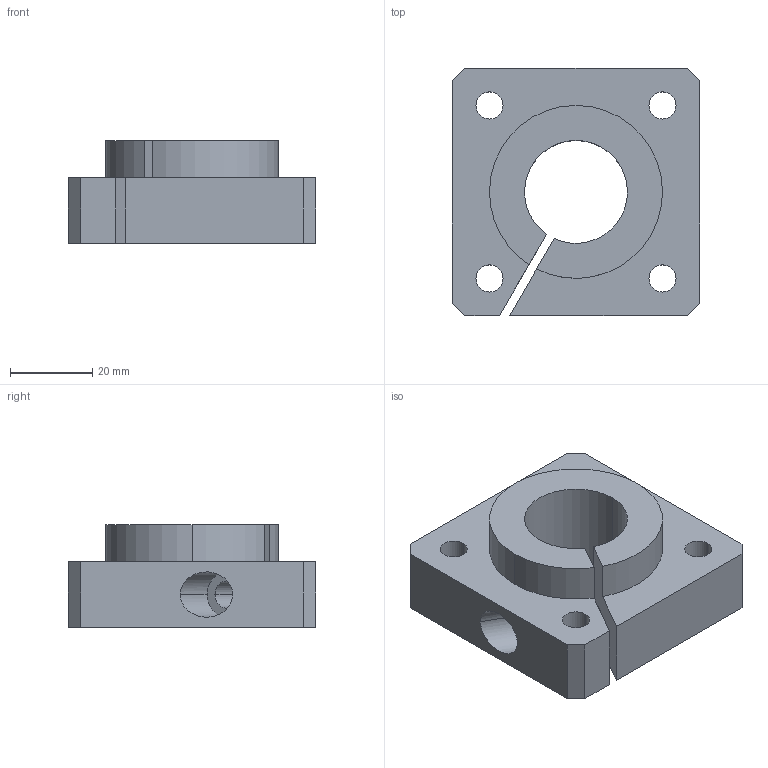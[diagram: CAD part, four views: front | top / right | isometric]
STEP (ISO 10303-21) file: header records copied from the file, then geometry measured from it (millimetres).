
FILE_DESCRIPTION (( 'STEP AP214' ), '1' );
FILE_NAME ('KFWB56-25.step', '2020-03-04T13:40:36', ( '' ), ( '' ), 'SwSTEP 2.0', 'SolidWorks 2019', '' );
FILE_SCHEMA (( 'AUTOMOTIVE_DESIGN' ));
Length unit declared in the file: millimetre
Products named in the file (1): KFWB56-25
Bounding box: 60 x 60 x 25 mm (x, y, z)
Volume: 52578.8 mm3; surface area: 15635.6 mm2
Topology: 1 solids, 1 shells, 37 faces, 100 edges, 65 vertices
Faces by surface type: cylinder 20, plane 15, cone 2
Entity records: 1238 total; most frequent: DIRECTION 210, CARTESIAN_POINT 207, ORIENTED_EDGE 196, EDGE_CURVE 98, AXIS2_PLACEMENT_3D 76, VERTEX_POINT 65, LINE 58, VECTOR 58
